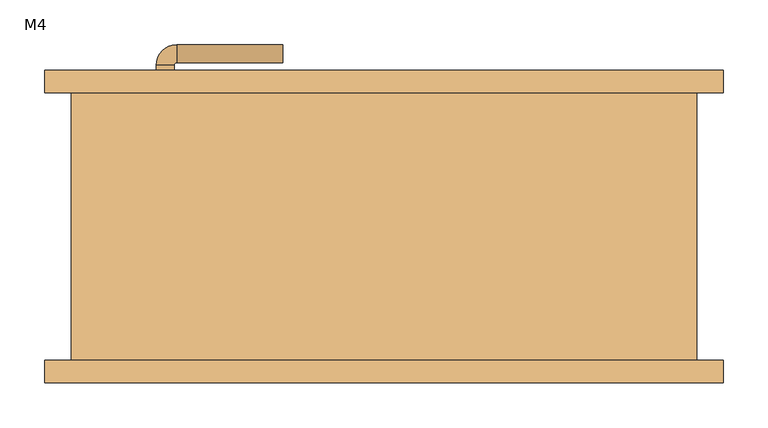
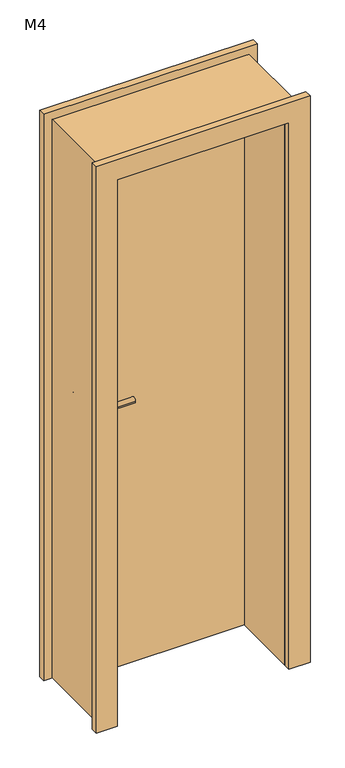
"""IFC4 building model written with IfcOpenShell, lengths in millimetres: door geometry, 单嵌板木门 1 : M4."""

import ifcopenshell
import ifcopenshell.guid

model = None  # the IFC model being written
_history = None  # IfcOwnerHistory: only IFC2X3 demands one
_inside = {}  # id of a spatial element -> (the spatial element, [elements in it])
_under = {}  # id of a project, library or spatial element -> (it, [spatial elements below it])
_declared = {}  # id of a project -> (the project, [libraries it declares])
_typed = {}  # id of a type object -> (the type object, [elements of that type])
_made_of = {}  # id of a material, layer set ... -> (it, [elements and type objects made of it])


def new_model(schema):
    """Start an empty IFC model of exactly this schema.

    Asked for "IFC4X3", IfcOpenShell would pick the latest addendum, in which some entities
    have other attributes; the version numbers below select the first issue.
    IFC2X3 requires an IfcOwnerHistory on every rooted entity: one is made here for all.
    """
    global model, _history
    if schema == "IFC4X3":
        model = ifcopenshell.file(schema_version=(4, 3, 0, 0))
    else:
        model = ifcopenshell.file(schema=schema)
    _inside.clear()
    _under.clear()
    _declared.clear()
    _typed.clear()
    _made_of.clear()
    _history = None
    if model.schema == "IFC2X3":
        org = make("IfcOrganization", Name="unknown")
        user = make(
            "IfcPersonAndOrganization",
            ThePerson=make("IfcPerson", FamilyName="unknown"),
            TheOrganization=org,
        )
        app = make(
            "IfcApplication",
            ApplicationDeveloper=org,
            Version="unknown",
            ApplicationFullName="unknown",
            ApplicationIdentifier="unknown",
        )
        _history = make(
            "IfcOwnerHistory",
            OwningUser=user,
            OwningApplication=app,
            ChangeAction="ADDED",
            CreationDate=0,
        )
    return model


def make(cls, **values):
    """One entity of the class cls with the attributes given. An attribute that is None is left unset."""
    return model.create_entity(
        cls, **{name: value for name, value in values.items() if value is not None}
    )


def rooted(cls, **values):
    """An entity with a GlobalId (a new one), such as an element, a storey or a relation."""
    return make(cls, GlobalId=ifcopenshell.guid.new(), OwnerHistory=_history, **values)


def si_unit(unit_type, name, prefix=None):
    """IfcSIUnit, for example si_unit("LENGTHUNIT", "METRE", prefix="MILLI")."""
    return make("IfcSIUnit", UnitType=unit_type, Prefix=prefix, Name=name)


def assignment(units):
    """IfcUnitAssignment: the units of a project."""
    return None if units is None else make("IfcUnitAssignment", Units=units)


def point(xyz):
    """IfcCartesianPoint."""
    return None if xyz is None else make("IfcCartesianPoint", Coordinates=xyz)


def direction(xyz):
    """IfcDirection."""
    return None if xyz is None else make("IfcDirection", DirectionRatios=xyz)


def frame(location, z_axis=None, x_axis=None):
    """IfcAxis2Placement3D, a coordinate frame: its origin and axes. An axis left out is left unset."""
    return make(
        "IfcAxis2Placement3D",
        Location=point(location),
        Axis=direction(z_axis),
        RefDirection=direction(x_axis),
    )


def frame_2d(location, x_axis=None):
    """IfcAxis2Placement2D, a coordinate frame in the plane: its origin and x axis."""
    return make(
        "IfcAxis2Placement2D", Location=point(location), RefDirection=direction(x_axis)
    )


def origin():
    """The frame at (0, 0, 0) with its axes left unset."""
    return frame((0.0, 0.0, 0.0))


def origin_with_axes():
    """The frame at (0, 0, 0) with the z axis (0, 0, 1) and the x axis (1, 0, 0) written out."""
    return frame((0.0, 0.0, 0.0), z_axis=(0.0, 0.0, 1.0), x_axis=(1.0, 0.0, 0.0))


def place(relative_to, where):
    """IfcLocalPlacement: puts the frame where relative to a parent placement (None: the world)."""
    return make(
        "IfcLocalPlacement", PlacementRelTo=relative_to, RelativePlacement=where
    )


def context(
    kind, dimensions, precision=None, world=None, true_north=None, identifier=None
):
    """IfcGeometricRepresentationContext, for example the 3D "Model" context."""
    return make(
        "IfcGeometricRepresentationContext",
        ContextIdentifier=identifier,
        ContextType=kind,
        CoordinateSpaceDimension=dimensions,
        Precision=precision,
        WorldCoordinateSystem=world,
        TrueNorth=true_north,
    )


def project(units=None, contexts=None):
    """IfcProject with its units and contexts."""
    return rooted(
        "IfcProject",
        Name="project",
        RepresentationContexts=contexts,
        UnitsInContext=assignment(units),
    )


def spatial(cls, under=None, at=None, **own):
    """A site, building, storey or space (cls), placed at a placement, below another one or the project."""
    s = rooted(cls, ObjectPlacement=at, **own)
    if under is not None:
        _under.setdefault(under.id(), (under, []))[1].append(s)
    return s


def polyline(points):
    """IfcPolyline through the points."""
    return make("IfcPolyline", Points=[point(p) for p in points])


def circle_curve(where, radius):
    """IfcCircle in the frame where."""
    return make("IfcCircle", Position=where, Radius=radius)


def ellipse_curve(where, semi_axis1, semi_axis2):
    """IfcEllipse in the frame where."""
    return make(
        "IfcEllipse", Position=where, SemiAxis1=semi_axis1, SemiAxis2=semi_axis2
    )


def trimmed(basis, trim1, trim2, sense, master):
    """IfcTrimmedCurve: the piece of a basis curve between two trims."""
    return make(
        "IfcTrimmedCurve",
        BasisCurve=basis,
        Trim1=trim1,
        Trim2=trim2,
        SenseAgreement=sense,
        MasterRepresentation=master,
    )


def segment(curve, same_sense, transition):
    """IfcCompositeCurveSegment."""
    return make(
        "IfcCompositeCurveSegment",
        Transition=transition,
        SameSense=same_sense,
        ParentCurve=curve,
    )


def composite_curve(segments, self_intersect=None):
    """IfcCompositeCurve: segments joined end to end."""
    return make("IfcCompositeCurve", Segments=segments, SelfIntersect=self_intersect)


def outline(outer, holes=None, kind="AREA"):
    """IfcArbitraryClosedProfileDef: a profile drawn as a closed curve; with holes, ...WithVoids."""
    if holes is None:
        return make("IfcArbitraryClosedProfileDef", ProfileType=kind, OuterCurve=outer)
    return make(
        "IfcArbitraryProfileDefWithVoids",
        ProfileType=kind,
        OuterCurve=outer,
        InnerCurves=holes,
    )


def extrude(swept, where, along, depth):
    """IfcExtrudedAreaSolid: the profile swept, set in the frame where, extruded along a direction by depth."""
    return make(
        "IfcExtrudedAreaSolid",
        SweptArea=swept,
        Position=where,
        ExtrudedDirection=direction(along),
        Depth=depth,
    )


def shape(context_of_items, identifier, shape_type, items):
    """IfcShapeRepresentation: the items that make up one representation, for example the "Body"."""
    return make(
        "IfcShapeRepresentation",
        ContextOfItems=context_of_items,
        RepresentationIdentifier=identifier,
        RepresentationType=shape_type,
        Items=items,
    )


def source(mapping_origin, context_of_items, identifier, shape_type, items):
    """IfcRepresentationMap: a shape defined once, which mapped items show again and again."""
    return make(
        "IfcRepresentationMap",
        MappingOrigin=mapping_origin,
        MappedRepresentation=shape(context_of_items, identifier, shape_type, items),
    )


def transform(
    local_origin,
    x_axis=None,
    y_axis=None,
    z_axis=None,
    scale=None,
    scale2=None,
    scale3=None,
    uniform=True,
):
    """IfcCartesianTransformationOperator3D, or its non-uniform kind. x_axis, y_axis, z_axis: its Axis1, 2, 3."""
    if uniform:
        return make(
            "IfcCartesianTransformationOperator3D",
            Axis1=direction(x_axis),
            Axis2=direction(y_axis),
            LocalOrigin=point(local_origin),
            Scale=scale,
            Axis3=direction(z_axis),
        )
    return make(
        "IfcCartesianTransformationOperator3DnonUniform",
        Axis1=direction(x_axis),
        Axis2=direction(y_axis),
        LocalOrigin=point(local_origin),
        Scale=scale,
        Axis3=direction(z_axis),
        Scale2=scale2,
        Scale3=scale3,
    )


def mapped(mapping_source, mapping_target):
    """IfcMappedItem: shows the shape of a source again, moved by a transform."""
    return make(
        "IfcMappedItem", MappingSource=mapping_source, MappingTarget=mapping_target
    )


def made_of(thing, what):
    """Note that an element or type object is made of a material, layer set ...; save() writes the relation."""
    if what is not None:
        _made_of.setdefault(what.id(), (what, []))[1].append(thing)
    return thing


def element(
    cls,
    number,
    at=None,
    inside=None,
    cuts=None,
    type_object=None,
    material=None,
    context=None,
    identifier="Body",
    shape_type=None,
    held_by="IfcProductDefinitionShape",
    body=None,
    shapes=None,
    **own,
):
    """One element of the class cls, such as IfcWall. Its Tag is "e" and its number.

    at: its placement. inside: the storey or other place that contains it. cuts: it is an
    opening in that element (IfcRelVoidsElement). A single representation is given by context,
    identifier, shape_type and body (its items); several are given by shapes. held_by: the class
    of the entity that holds the representations. save() writes the other relations.
    """
    e = rooted(cls, Tag="e%d" % number, ObjectPlacement=at, **own)
    if body is not None:
        shapes = [shape(context, identifier, shape_type, body)]
    if shapes is not None:
        e.Representation = make(held_by, Representations=shapes)
    if inside is not None:
        _inside.setdefault(inside.id(), (inside, []))[1].append(e)
    if cuts is not None:
        rooted(
            "IfcRelVoidsElement", RelatingBuildingElement=cuts, RelatedOpeningElement=e
        )
    if type_object is not None:
        _typed.setdefault(type_object.id(), (type_object, []))[1].append(e)
    return made_of(e, material)


def aggregate(whole, parts):
    """IfcRelAggregates: a whole, such as a stair, and the parts it consists of."""
    return rooted("IfcRelAggregates", RelatingObject=whole, RelatedObjects=parts)


def save(model, path):
    """Write the relations noted so far, then the file.

    IfcRelAggregates (storeys below a building ...), IfcRelContainedInSpatialStructure (elements
    in a storey), IfcRelDefinesByType, IfcRelAssociatesMaterial and IfcRelDeclares: one each for
    every whole, place, type object, material and project.
    """
    for whole, parts in _under.values():
        aggregate(whole, parts)
    for where, things in _inside.values():
        rooted(
            "IfcRelContainedInSpatialStructure",
            RelatedElements=things,
            RelatingStructure=where,
        )
    for kind, things in _typed.values():
        rooted("IfcRelDefinesByType", RelatedObjects=things, RelatingType=kind)
    for what, things in _made_of.values():
        rooted("IfcRelAssociatesMaterial", RelatedObjects=things, RelatingMaterial=what)
    for by, libraries in _declared.values():
        rooted("IfcRelDeclares", RelatingContext=by, RelatedDefinitions=libraries)
    model.write(path)


def plane_surface(at):
    """IfcPlane: the flat surface through the origin of the frame at, square to its z axis."""
    return make("IfcPlane", Position=at)


def cylinder_surface(at, radius):
    """IfcCylindricalSurface: all points at the distance radius from the z axis of the frame at."""
    return make("IfcCylindricalSurface", Position=at, Radius=radius)


def revolved_surface(curve, axis_point, axis_direction):
    """IfcSurfaceOfRevolution: the curve turned about the line through axis_point along axis_direction."""
    return make(
        "IfcSurfaceOfRevolution",
        SweptCurve=make("IfcArbitraryOpenProfileDef", ProfileType="CURVE", Curve=curve),
        AxisPosition=make("IfcAxis1Placement", Location=point(axis_point), Axis=direction(axis_direction)),
    )


def advanced_brep(points, edges, surfaces, faces):
    """IfcAdvancedBrep: a solid bounded by faces that lie on surfaces and meet in shared edges.

    An edge is (start, end): straight between two places in points (the first is 0);
    or (start, end, curve); or (start, end, curve, False) where it runs against its curve.
    A face is (place in surfaces, loops), or (place, loops, False) where it looks against
    its surface's normal. A loop lists edges by number (the first is 1), with a minus sign
    where the edge is run from its end to its start. The first loop is the outer one.
    """
    corners = [point(p) for p in points]
    vertices = [make("IfcVertexPoint", VertexGeometry=c) for c in corners]
    made = []
    for start, end, *more in edges:
        made.append(
            make(
                "IfcEdgeCurve",
                EdgeStart=vertices[start],
                EdgeEnd=vertices[end],
                EdgeGeometry=more[0] if more else make("IfcPolyline", Points=[corners[start], corners[end]]),
                SameSense=more[1] if len(more) > 1 else True,
            )
        )
    hull = []
    for where, loops, *sense in faces:
        bounds = []
        for j, loop in enumerate(loops):
            ring = [make("IfcOrientedEdge", EdgeElement=made[abs(k) - 1], Orientation=k > 0) for k in loop]
            bounds.append(
                make(
                    "IfcFaceOuterBound" if j == 0 else "IfcFaceBound",
                    Bound=make("IfcEdgeLoop", EdgeList=ring),
                    Orientation=True,
                )
            )
        hull.append(make("IfcAdvancedFace", Bounds=bounds, FaceSurface=surfaces[where], SameSense=sense[0] if sense else True))
    return make("IfcAdvancedBrep", Outer=make("IfcClosedShell", CfsFaces=hull))


def m4_53e74651(model_context):
    return source(origin(), model_context, "Body", "SolidModel", [
        extrude(outline(composite_curve([segment(trimmed(circle_curve(frame_2d((900.0, -245.0)), 25.0), [point((900.0, -220.0))], [point((900.0, -270.0))], False, "CARTESIAN"), True, "CONTINUOUS"), segment(trimmed(circle_curve(frame_2d((900.0, -245.0)), 25.0), [point((900.0, -270.0))], [point((900.0, -220.0))], False, "CARTESIAN"), True, "CONTINUOUS")], self_intersect=False)), frame((0.0, 90.0, 0.0), z_axis=(0.0, 1.0, 0.0), x_axis=(0.0, 0.0, 1.0)), (0.0, 0.0, 1.0), 10.0),
        extrude(outline(composite_curve([segment(trimmed(circle_curve(frame_2d((900.0, -245.0)), 25.0), [point((900.0, -220.0))], [point((900.0, -270.0))], False, "CARTESIAN"), True, "CONTINUOUS"), segment(trimmed(circle_curve(frame_2d((900.0, -245.0)), 25.0), [point((900.0, -270.0))], [point((900.0, -220.0))], False, "CARTESIAN"), True, "CONTINUOUS")], self_intersect=False)), frame((0.0, 150.0, 0.0), z_axis=(0.0, 1.0, 0.0), x_axis=(0.0, 0.0, 1.0)), (0.0, 0.0, 1.0), 10.0),
        advanced_brep(
        [(-255.0, 90.0, 1020.0), (-235.0, 90.0, 1020.0), (-235.0, 69.3866449, 1020.0), (-255.0, 69.3866449, 1020.0), (-113.419036, 46.419036, 1020.0), (-113.419036, 66.419036, 1020.0), (-232.0323911, 66.419036, 1020.0), (-232.0323911, 46.419036, 1020.0)],
        [
            (0, 1, circle_curve(frame((-245.0, 90.0, 1020.0), z_axis=(0.0, 1.0, 0.0), x_axis=(1.0, 0.0, 0.0)), 10.0)),
            (1, 0, circle_curve(frame((-245.0, 90.0, 1020.0), z_axis=(0.0, 1.0, 0.0), x_axis=(1.0, 0.0, 0.0)), 10.0)),
            (1, 2),
            (2, 3, circle_curve(frame((-245.0, 69.3866449, 1020.0), z_axis=(0.0, 1.0, 0.0), x_axis=(1.0, 0.0, 0.0)), 10.0)),
            (3, 0),
            (3, 2, circle_curve(frame((-245.0, 69.3866449, 1020.0), z_axis=(0.0, 1.0, 0.0), x_axis=(1.0, 0.0, 0.0)), 10.0)),
            (4, 5, circle_curve(frame((-113.419036, 56.419036, 1020.0), z_axis=(1.0, 0.0, 0.0), x_axis=(0.0, 1.0, 0.0)), 10.0)),
            (5, 4, circle_curve(frame((-113.419036, 56.419036, 1020.0), z_axis=(1.0, 0.0, 0.0), x_axis=(0.0, 1.0, 0.0)), 10.0)),
            (6, 2, circle_curve(frame((-232.0323911, 69.3866449, 1020.0), z_axis=(0.0, 0.0, -1.0), x_axis=(-1.0, 0.0, 0.0)), 2.9676089)),
            (3, 7, circle_curve(frame((-232.0323911, 69.3866449, 1020.0), z_axis=(0.0, 0.0, 1.0), x_axis=(-1.0, 0.0, 0.0)), 22.9676089)),
            (7, 6, circle_curve(frame((-232.0323911, 56.419036, 1020.0), z_axis=(-1.0, 0.0, 0.0), x_axis=(0.0, 1.0, 0.0)), 10.0)),
            (6, 7, circle_curve(frame((-232.0323911, 56.419036, 1020.0), z_axis=(-1.0, 0.0, 0.0), x_axis=(0.0, 1.0, 0.0)), 10.0)),
            (7, 4),
            (5, 6),
        ],
        [
            plane_surface(frame((-245.0, 90.0, 900.0), z_axis=(0.0, 1.0, 0.0), x_axis=(0.0, 0.0, 1.0))),
            cylinder_surface(frame((-245.0, 90.0, 1020.0), z_axis=(0.0, 1.0, 0.0), x_axis=(1.0, 0.0, 0.0)), 10.0),
            plane_surface(frame((-113.419036, 56.419036, 900.0), z_axis=(1.0, 0.0, 0.0), x_axis=(0.0, 0.0, 1.0))),
            revolved_surface(trimmed(ellipse_curve(frame((-245.0, 69.3866449, 1020.0), z_axis=(0.0, 1.0, 0.0), x_axis=(1.0, 0.0, 0.0)), 10.0, 10.0), [point((-255.0, 69.3866449, 1020.0))], [point((-235.0, 69.3866449, 1020.0))], True, "CARTESIAN"), (-232.0323911, 69.3866449, 900.0), (0.0, 0.0, 1.0)),
            revolved_surface(trimmed(ellipse_curve(frame((-245.0, 69.3866449, 1020.0), z_axis=(0.0, 1.0, 0.0), x_axis=(1.0, 0.0, 0.0)), 10.0, 10.0), [point((-235.0, 69.3866449, 1020.0))], [point((-255.0, 69.3866449, 1020.0))], True, "CARTESIAN"), (-232.0323911, 69.3866449, 900.0), (0.0, 0.0, 1.0)),
            cylinder_surface(frame((-232.0323911, 56.419036, 1020.0), z_axis=(-1.0, 0.0, 0.0), x_axis=(0.0, 1.0, 0.0)), 10.0),
        ],
        [
            (0, [[1, 2]]),
            (1, [[-2, 3, 4, 5]]),
            (1, [[-1, -5, 6, -3]]),
            (2, [[7, 8]]),
            (3, [[9, -6, 10, 11]]),
            (4, [[-10, -4, -9, 12]]),
            (5, [[-11, 13, -8, 14]]),
            (5, [[-12, -14, -7, -13]]),
        ],
    ),
        extrude(outline(composite_curve([segment(trimmed(circle_curve(frame_2d((1020.0, -245.0)), 25.0), [point((1020.0, -220.0))], [point((1020.0, -270.0))], False, "CARTESIAN"), True, "CONTINUOUS"), segment(trimmed(circle_curve(frame_2d((1020.0, -245.0)), 25.0), [point((1020.0, -270.0))], [point((1020.0, -220.0))], False, "CARTESIAN"), True, "CONTINUOUS")], self_intersect=False)), frame((0.0, 90.0, 0.0), z_axis=(0.0, 1.0, 0.0), x_axis=(0.0, 0.0, 1.0)), (0.0, 0.0, 1.0), 10.0),
        advanced_brep(
        [(-235.0, 160.0, 1020.0), (-255.0, 160.0, 1020.0), (-235.0, 180.6133551, 1020.0), (-255.0, 180.6133551, 1020.0), (-113.419036, 183.580964, 1020.0), (-113.419036, 203.580964, 1020.0), (-232.0323911, 203.580964, 1020.0), (-232.0323911, 183.580964, 1020.0)],
        [
            (0, 1, circle_curve(frame((-245.0, 160.0, 1020.0), z_axis=(0.0, -1.0, 0.0), x_axis=(-1.0, 0.0, 0.0)), 10.0)),
            (1, 0, circle_curve(frame((-245.0, 160.0, 1020.0), z_axis=(0.0, -1.0, 0.0), x_axis=(-1.0, 0.0, 0.0)), 10.0)),
            (0, 2),
            (2, 3, circle_curve(frame((-245.0, 180.6133551, 1020.0), z_axis=(0.0, -1.0, 0.0), x_axis=(-1.0, 0.0, 0.0)), 10.0)),
            (3, 1),
            (3, 2, circle_curve(frame((-245.0, 180.6133551, 1020.0), z_axis=(0.0, -1.0, 0.0), x_axis=(-1.0, 0.0, 0.0)), 10.0)),
            (4, 5, circle_curve(frame((-113.419036, 193.580964, 1020.0), z_axis=(1.0, 0.0, 0.0), x_axis=(0.0, 1.0, 0.0)), 10.0)),
            (5, 4, circle_curve(frame((-113.419036, 193.580964, 1020.0), z_axis=(1.0, 0.0, 0.0), x_axis=(0.0, 1.0, 0.0)), 10.0)),
            (6, 3, circle_curve(frame((-232.0323911, 180.6133551, 1020.0), z_axis=(0.0, 0.0, 1.0), x_axis=(-1.0, 0.0, 0.0)), 22.9676089)),
            (2, 7, circle_curve(frame((-232.0323911, 180.6133551, 1020.0), z_axis=(0.0, 0.0, -1.0), x_axis=(-1.0, 0.0, 0.0)), 2.9676089)),
            (7, 6, circle_curve(frame((-232.0323911, 193.580964, 1020.0), z_axis=(-1.0, 0.0, 0.0), x_axis=(0.0, 1.0, 0.0)), 10.0)),
            (6, 7, circle_curve(frame((-232.0323911, 193.580964, 1020.0), z_axis=(-1.0, 0.0, 0.0), x_axis=(0.0, 1.0, 0.0)), 10.0)),
            (7, 4),
            (5, 6),
        ],
        [
            plane_surface(frame((-245.0, 160.0, 900.0), z_axis=(0.0, -1.0, 0.0), x_axis=(0.0, 0.0, 1.0))),
            cylinder_surface(frame((-245.0, 160.0, 1020.0), z_axis=(0.0, -1.0, 0.0), x_axis=(-1.0, 0.0, 0.0)), 10.0),
            plane_surface(frame((-113.419036, 193.580964, 900.0), z_axis=(1.0, 0.0, 0.0), x_axis=(0.0, 0.0, 1.0))),
            revolved_surface(trimmed(ellipse_curve(frame((-245.0, 180.6133551, 1020.0), z_axis=(0.0, -1.0, 0.0), x_axis=(-1.0, 0.0, 0.0)), 10.0, 10.0), [point((-235.0, 180.6133551, 1020.0))], [point((-255.0, 180.6133551, 1020.0))], True, "CARTESIAN"), (-232.0323911, 180.6133551, 900.0), (0.0, 0.0, -1.0)),
            revolved_surface(trimmed(ellipse_curve(frame((-245.0, 180.6133551, 1020.0), z_axis=(0.0, -1.0, 0.0), x_axis=(-1.0, 0.0, 0.0)), 10.0, 10.0), [point((-255.0, 180.6133551, 1020.0))], [point((-235.0, 180.6133551, 1020.0))], True, "CARTESIAN"), (-232.0323911, 180.6133551, 900.0), (0.0, 0.0, -1.0)),
            cylinder_surface(frame((-232.0323911, 193.580964, 1020.0), z_axis=(-1.0, 0.0, 0.0), x_axis=(0.0, 1.0, 0.0)), 10.0),
        ],
        [
            (0, [[1, 2]]),
            (1, [[-1, 3, 4, 5]]),
            (1, [[-2, -5, 6, -3]]),
            (2, [[7, 8]]),
            (3, [[9, -4, 10, 11]]),
            (4, [[-10, -6, -9, 12]]),
            (5, [[-11, 13, -8, 14]]),
            (5, [[-12, -14, -7, -13]]),
        ],
    ),
        extrude(outline(composite_curve([segment(trimmed(circle_curve(frame_2d((1020.0, -245.0)), 25.0), [point((1020.0, -220.0))], [point((1020.0, -270.0))], False, "CARTESIAN"), True, "CONTINUOUS"), segment(trimmed(circle_curve(frame_2d((1020.0, -245.0)), 25.0), [point((1020.0, -270.0))], [point((1020.0, -220.0))], False, "CARTESIAN"), True, "CONTINUOUS")], self_intersect=False)), frame((0.0, 150.0, 0.0), z_axis=(0.0, 1.0, 0.0), x_axis=(0.0, 0.0, 1.0)), (0.0, 0.0, 1.0), 10.0),
        extrude(outline(polyline([(0.0, 380.0), (2130.0, 380.0), (2130.0, -380.0), (0.0, -380.0), (0.0, -305.0), (2055.0, -305.0), (2055.0, 305.0), (0.0, 305.0), (0.0, 380.0)])), frame((0.0, 150.0, 0.0), z_axis=(0.0, 1.0, 0.0), x_axis=(0.0, 0.0, 1.0)), (0.0, 0.0, 1.0), 25.0),
        extrude(outline(polyline([(2130.0, 380.0), (2130.0, -380.0), (0.0, -380.0), (0.0, -305.0), (2055.0, -305.0), (2055.0, 305.0), (0.0, 305.0), (0.0, 380.0), (2130.0, 380.0)])), frame((0.0, -175.0, 0.0), z_axis=(0.0, 1.0, 0.0), x_axis=(0.0, 0.0, 1.0)), (0.0, 0.0, 1.0), 25.0),
        extrude(outline(polyline([(305.0, 100.0), (-305.0, 100.0), (-305.0, 150.0), (305.0, 150.0), (305.0, 100.0)])), origin_with_axes(), (0.0, 0.0, 1.0), 2055.0),
        extrude(outline(polyline([(2100.0, -350.0), (0.0, -350.0), (0.0, -305.0), (2055.0, -305.0), (2055.0, 305.0), (0.0, 305.0), (0.0, 350.0), (2100.0, 350.0), (2100.0, -350.0)])), frame((0.0, -150.0, 0.0), z_axis=(0.0, 1.0, 0.0), x_axis=(0.0, 0.0, 1.0)), (0.0, 0.0, 1.0), 300.0),
    ])


if __name__ == "__main__":
    model = new_model("IFC4")
    model_context = context("Model", 3, world=origin())
    ifc_project = project(units=[si_unit("LENGTHUNIT", "METRE", prefix="MILLI")], contexts=[model_context])
    site = spatial("IfcSite", under=ifc_project)
    building = spatial("IfcBuilding", under=site)
    placement = place(None, origin())
    m4_shape = m4_53e74651(model_context)
    element("IfcDoor", 1, ObjectType="单嵌板木门 1 : M4", at=placement, inside=building, context=model_context, shape_type="MappedRepresentation", body=[
        mapped(m4_shape, transform((0.0, 0.0, 0.0), x_axis=(1.0, 0.0, 0.0), y_axis=(0.0, 1.0, 0.0), z_axis=(0.0, 0.0, 1.0))),
    ])
    save(model, "model.ifc")
